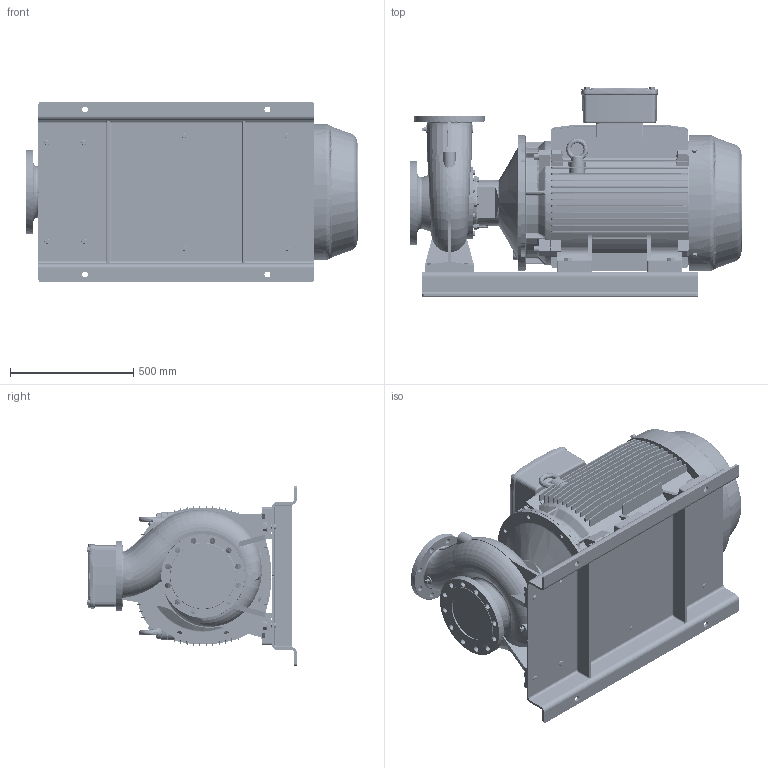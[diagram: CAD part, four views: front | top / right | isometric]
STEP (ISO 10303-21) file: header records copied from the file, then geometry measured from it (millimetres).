
FILE_DESCRIPTION (( 'STEP AP214' ), '1' );
FILE_NAME ('GSD2 150-200_90 & 110_(280SM)_W21_BP.STEP', '2024-04-22T02:02:26', ( '' ), ( '' ), 'SwSTEP 2.0', 'SolidWorks 2019', '' );
FILE_SCHEMA (( 'AUTOMOTIVE_DESIGN' ));
Length unit declared in the file: millimetre
Products named in the file (7): 150-200-280S_M_______; Parametric bolt_SFT-A411B; N9S4 GSDA-949 F1-1832981-00; GSD2  150-200_90 & 110_(280SM)_W21_BP; 280S_M2P IE3_W21T_B35; Parametric bolt_SFT-A403B; Parametric Flat Washer_M20
Assembly tree (19 placements, depth 2):
  GSD2  150-200_90 & 110_(280SM)_W21_BP
    150-200-280S_M_______
    280S_M2P IE3_W21T_B35
    N9S4 GSDA-949 F1-1832981-00
    Parametric bolt_SFT-A403B  x4
    Parametric bolt_SFT-A411B  x4
    Parametric Flat Washer_M20  x8
Bounding box: 1348 x 849.6 x 730 mm (x, y, z)
Volume: 254849229.9 mm3; surface area: 8683854.6 mm2
Topology: 21 solids, 28 shells, 3983 faces, 10458 edges, 6656 vertices
Faces by surface type: plane 1626, cylinder 1305, cone 510, bspline 260, torus 252, sphere 30
Entity records: 174102 total; most frequent: CARTESIAN_POINT 88648, ORIENTED_EDGE 18516, DIRECTION 17246, EDGE_CURVE 9258, AXIS2_PLACEMENT_3D 6373, VERTEX_POINT 5893, VECTOR 4500, LINE 4500
